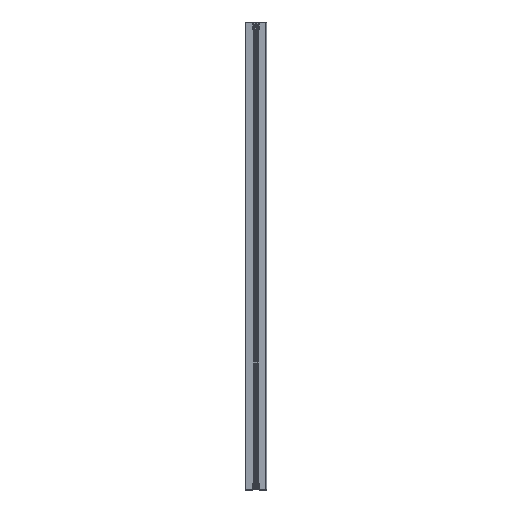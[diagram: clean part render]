
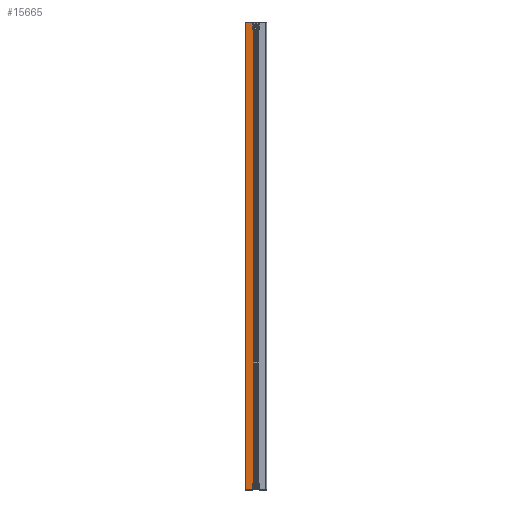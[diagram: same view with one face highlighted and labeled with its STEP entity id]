
A CAD part, left-side view. The second image highlights one B-rep face of the part: STEP entity #15665.
In plain terms, the highlighted planar face has unit normal (-1, 0, 0).
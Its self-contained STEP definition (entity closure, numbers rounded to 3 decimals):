
#25 = VECTOR ( 'NONE', #22810, 1000. ) ;
#75 = DIRECTION ( 'NONE',  ( 0., 0., 1. ) ) ;
#292 = ORIENTED_EDGE ( 'NONE', *, *, #3607, .T. ) ;
#522 = ORIENTED_EDGE ( 'NONE', *, *, #17882, .T. ) ;
#1011 = CARTESIAN_POINT ( 'NONE',  ( -16., 8.487, 1017. ) ) ;
#1204 = AXIS2_PLACEMENT_3D ( 'NONE', #15982, #20561, #25021 ) ;
#1889 = CARTESIAN_POINT ( 'NONE',  ( -16., 13.85, -1017. ) ) ;
#2524 = CARTESIAN_POINT ( 'NONE',  ( -16., 13.85, -987.3 ) ) ;
#3170 = CARTESIAN_POINT ( 'NONE',  ( -16., 13.85, 1017. ) ) ;
#3607 = EDGE_CURVE ( 'NONE', #14698, #14863, #5746, .T. ) ;
#4582 = ORIENTED_EDGE ( 'NONE', *, *, #12537, .T. ) ;
#4873 = VECTOR ( 'NONE', #13057, 1000. ) ;
#5222 = DIRECTION ( 'NONE',  ( 0., -1., 0. ) ) ;
#5746 = LINE ( 'NONE', #1889, #20355 ) ;
#5902 = EDGE_LOOP ( 'NONE', ( #292, #19950, #522, #14037, #6521, #21589, #4582, #8793 ) ) ;
#5917 = CARTESIAN_POINT ( 'NONE',  ( -16., 13.85, 987.3 ) ) ;
#6240 = VERTEX_POINT ( 'NONE', #18725 ) ;
#6521 = ORIENTED_EDGE ( 'NONE', *, *, #14419, .F. ) ;
#6557 = CARTESIAN_POINT ( 'NONE',  ( -16., 46.5, 1017. ) ) ;
#7960 = VECTOR ( 'NONE', #10035, 1000. ) ;
#8793 = ORIENTED_EDGE ( 'NONE', *, *, #17888, .T. ) ;
#10035 = DIRECTION ( 'NONE',  ( 0., -1., 0. ) ) ;
#10619 = DIRECTION ( 'NONE',  ( 0., 0., 1. ) ) ;
#10991 = EDGE_CURVE ( 'NONE', #14211, #19600, #28652, .T. ) ;
#11578 = LINE ( 'NONE', #16312, #19715 ) ;
#12046 = CARTESIAN_POINT ( 'NONE',  ( -16., 8.487, -1016.9 ) ) ;
#12495 = VECTOR ( 'NONE', #18554, 1000. ) ;
#12537 = EDGE_CURVE ( 'NONE', #15437, #6240, #15129, .T. ) ;
#13057 = DIRECTION ( 'NONE',  ( 0., 0., -1. ) ) ;
#13085 = VERTEX_POINT ( 'NONE', #20026 ) ;
#13378 = LINE ( 'NONE', #17967, #20013 ) ;
#13573 = CARTESIAN_POINT ( 'NONE',  ( -16., 13.85, 1017. ) ) ;
#14037 = ORIENTED_EDGE ( 'NONE', *, *, #10991, .F. ) ;
#14211 = VERTEX_POINT ( 'NONE', #5917 ) ;
#14419 = EDGE_CURVE ( 'NONE', #25684, #14211, #16341, .T. ) ;
#14698 = VERTEX_POINT ( 'NONE', #24426 ) ;
#14863 = VERTEX_POINT ( 'NONE', #2524 ) ;
#15129 = LINE ( 'NONE', #6557, #4873 ) ;
#15437 = VERTEX_POINT ( 'NONE', #28808 ) ;
#15665 = ADVANCED_FACE ( 'NONE', ( #27102 ), #27389, .F. ) ;
#15982 = CARTESIAN_POINT ( 'NONE',  ( -16., 8.487, 1017. ) ) ;
#16312 = CARTESIAN_POINT ( 'NONE',  ( -16., 13.85, -987.3 ) ) ;
#16341 = LINE ( 'NONE', #13573, #12495 ) ;
#16484 = DIRECTION ( 'NONE',  ( 0., -1., 0. ) ) ;
#17882 = EDGE_CURVE ( 'NONE', #13085, #19600, #13378, .T. ) ;
#17888 = EDGE_CURVE ( 'NONE', #6240, #14698, #22708, .T. ) ;
#17967 = CARTESIAN_POINT ( 'NONE',  ( -16., 8.776, 1017. ) ) ;
#18554 = DIRECTION ( 'NONE',  ( 0., 0., -1. ) ) ;
#18725 = CARTESIAN_POINT ( 'NONE',  ( -16., 46.5, -1016.9 ) ) ;
#19600 = VERTEX_POINT ( 'NONE', #22044 ) ;
#19715 = VECTOR ( 'NONE', #5222, 1000. ) ;
#19950 = ORIENTED_EDGE ( 'NONE', *, *, #28730, .T. ) ;
#20013 = VECTOR ( 'NONE', #75, 1000. ) ;
#20026 = CARTESIAN_POINT ( 'NONE',  ( -16., 8.776, -987.3 ) ) ;
#20355 = VECTOR ( 'NONE', #10619, 1000. ) ;
#20561 = DIRECTION ( 'NONE',  ( 1., 0., 0. ) ) ;
#21589 = ORIENTED_EDGE ( 'NONE', *, *, #22667, .F. ) ;
#22044 = CARTESIAN_POINT ( 'NONE',  ( -16., 8.776, 987.3 ) ) ;
#22667 = EDGE_CURVE ( 'NONE', #15437, #25684, #23796, .T. ) ;
#22708 = LINE ( 'NONE', #12046, #27608 ) ;
#22810 = DIRECTION ( 'NONE',  ( 0., -1., 0. ) ) ;
#23796 = LINE ( 'NONE', #1011, #7960 ) ;
#24344 = CARTESIAN_POINT ( 'NONE',  ( -16., 13.85, 987.3 ) ) ;
#24426 = CARTESIAN_POINT ( 'NONE',  ( -16., 13.85, -1016.9 ) ) ;
#25021 = DIRECTION ( 'NONE',  ( 0., 1., 0. ) ) ;
#25684 = VERTEX_POINT ( 'NONE', #3170 ) ;
#27102 = FACE_OUTER_BOUND ( 'NONE', #5902, .T. ) ;
#27389 = PLANE ( 'NONE',  #1204 ) ;
#27608 = VECTOR ( 'NONE', #16484, 1000. ) ;
#28652 = LINE ( 'NONE', #24344, #25 ) ;
#28730 = EDGE_CURVE ( 'NONE', #14863, #13085, #11578, .T. ) ;
#28808 = CARTESIAN_POINT ( 'NONE',  ( -16., 46.5, 1017. ) ) ;
